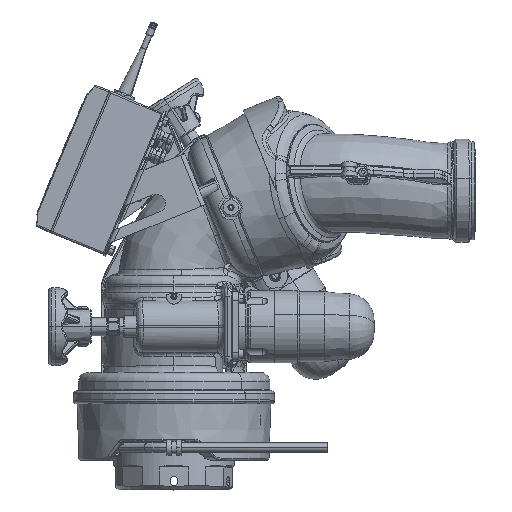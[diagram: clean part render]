
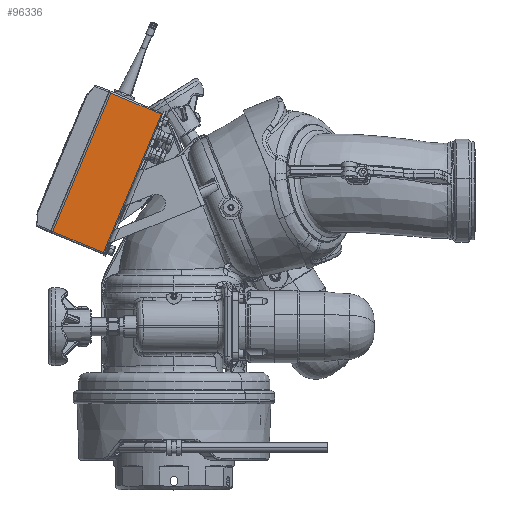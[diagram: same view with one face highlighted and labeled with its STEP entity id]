
A CAD part, top view. The second image highlights one B-rep face of the part: STEP entity #96336.
In plain terms, the highlighted planar face has unit normal (0.013, -0.005, 1).
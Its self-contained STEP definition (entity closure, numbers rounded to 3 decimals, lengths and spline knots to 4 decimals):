
#5495 = LINE ( 'NONE', #172220, #90093 ) ;
#16039 = CARTESIAN_POINT ( 'NONE',  ( -8.5262, 2.1695, 2.5479 ) ) ;
#22836 = CARTESIAN_POINT ( 'NONE',  ( -6.3887, 1.2759, 2.5155 ) ) ;
#30579 = VERTEX_POINT ( 'NONE', #151640 ) ;
#33530 = DIRECTION ( 'NONE',  ( -0.923, 0.386, 0.014 ) ) ;
#33946 = CARTESIAN_POINT ( 'NONE',  ( -6.0923, 7.807, 2.5469 ) ) ;
#40838 = DIRECTION ( 'NONE',  ( 0.386, 0.923, 0. ) ) ;
#42700 = ORIENTED_EDGE ( 'NONE', *, *, #56961, .T. ) ;
#45645 = CARTESIAN_POINT ( 'NONE',  ( -8.4607, 2.1421, 2.5469 ) ) ;
#54706 = AXIS2_PLACEMENT_3D ( 'NONE', #16039, #109834, #33530 ) ;
#56961 = EDGE_CURVE ( 'NONE', #100929, #30579, #190404, .T. ) ;
#60422 = EDGE_LOOP ( 'NONE', ( #85867, #42700, #123310, #91196 ) ) ;
#63362 = DIRECTION ( 'NONE',  ( -0.923, 0.386, 0.014 ) ) ;
#70628 = DIRECTION ( 'NONE',  ( -0.923, 0.386, 0.014 ) ) ;
#75421 = DIRECTION ( 'NONE',  ( -0.386, -0.923, 0. ) ) ;
#84723 = VERTEX_POINT ( 'NONE', #33946 ) ;
#85867 = ORIENTED_EDGE ( 'NONE', *, *, #125500, .F. ) ;
#86264 = LINE ( 'NONE', #45645, #197738 ) ;
#86828 = CARTESIAN_POINT ( 'NONE',  ( -6.1578, 7.8343, 2.5479 ) ) ;
#90093 = VECTOR ( 'NONE', #63362, 39.3701 ) ;
#91196 = ORIENTED_EDGE ( 'NONE', *, *, #105309, .T. ) ;
#95641 = VECTOR ( 'NONE', #70628, 39.3701 ) ;
#96336 = ADVANCED_FACE ( 'NONE', ( #178261 ), #140313, .T. ) ;
#98334 = VECTOR ( 'NONE', #40838, 39.3701 ) ;
#100929 = VERTEX_POINT ( 'NONE', #22836 ) ;
#105309 = EDGE_CURVE ( 'NONE', #84723, #134446, #86264, .T. ) ;
#109834 = DIRECTION ( 'NONE',  ( 0.013, -0.005, 1. ) ) ;
#123310 = ORIENTED_EDGE ( 'NONE', *, *, #130233, .T. ) ;
#125500 = EDGE_CURVE ( 'NONE', #100929, #134446, #5495, .T. ) ;
#129355 = LINE ( 'NONE', #86828, #95641 ) ;
#130233 = EDGE_CURVE ( 'NONE', #30579, #84723, #129355, .T. ) ;
#133397 = CARTESIAN_POINT ( 'NONE',  ( -4.0203, 6.9407, 2.5155 ) ) ;
#134446 = VERTEX_POINT ( 'NONE', #166989 ) ;
#140313 = PLANE ( 'NONE',  #54706 ) ;
#151640 = CARTESIAN_POINT ( 'NONE',  ( -4.0203, 6.9407, 2.5155 ) ) ;
#166989 = CARTESIAN_POINT ( 'NONE',  ( -8.4607, 2.1421, 2.5469 ) ) ;
#172220 = CARTESIAN_POINT ( 'NONE',  ( -8.5262, 2.1695, 2.5479 ) ) ;
#178261 = FACE_OUTER_BOUND ( 'NONE', #60422, .T. ) ;
#190404 = LINE ( 'NONE', #133397, #98334 ) ;
#197738 = VECTOR ( 'NONE', #75421, 39.3701 ) ;
